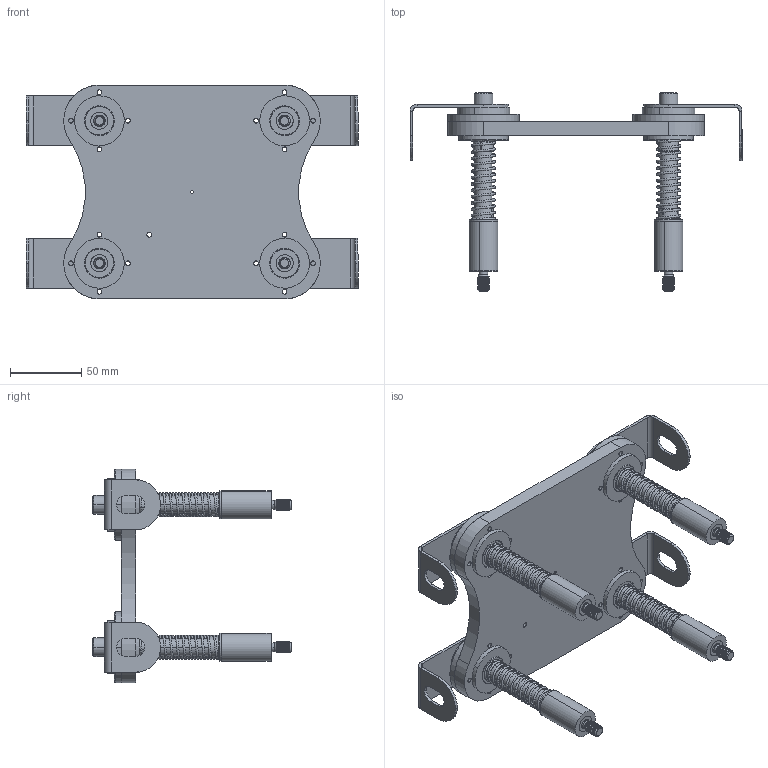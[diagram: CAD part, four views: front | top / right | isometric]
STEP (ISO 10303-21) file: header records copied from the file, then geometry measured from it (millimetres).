
FILE_DESCRIPTION (( 'STEP AP203' ), '1' );
FILE_NAME ('Floating Attachment 130x100.STEP', '2020-04-06T11:23:27', ( '' ), ( '' ), 'SwSTEP 2.0', 'SolidWorks 2019', '' );
FILE_SCHEMA (( 'CONFIG_CONTROL_DESIGN' ));
Length unit declared in the file: millimetre
Products named in the file (1): Floating Attachment 130x100
Bounding box: 233 x 139 x 150 mm (x, y, z)
Surface area: 157042.9 mm2 (no closed solid volume)
Topology: 0 solids, 41 shells, 604 faces, 1644 edges, 1094 vertices
Faces by surface type: cylinder 286, plane 154, cone 80, bspline 44, torus 40
Entity records: 51507 total; most frequent: CARTESIAN_POINT 36435, DIRECTION 3206, ORIENTED_EDGE 2982, EDGE_CURVE 1644, AXIS2_PLACEMENT_3D 1297, VERTEX_POINT 1094, EDGE_LOOP 736, CIRCLE 736
